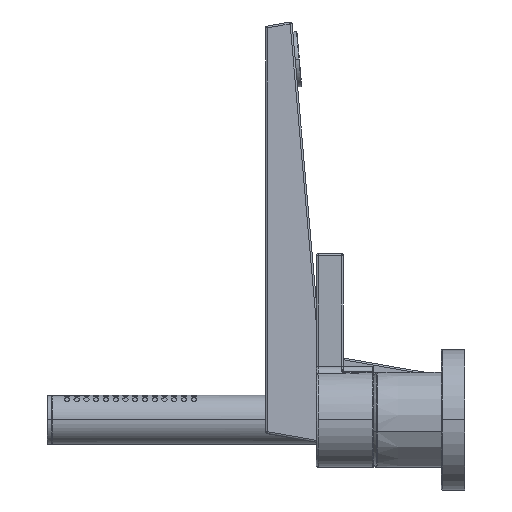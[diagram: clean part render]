
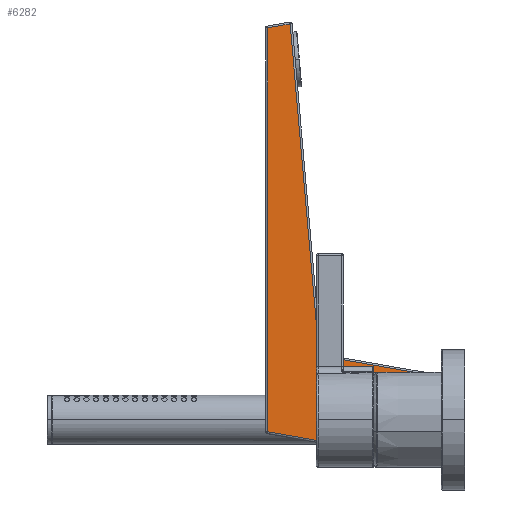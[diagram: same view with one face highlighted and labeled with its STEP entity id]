
A CAD part, left-side view. The second image highlights one B-rep face of the part: STEP entity #6282.
In plain terms, the highlighted planar face has unit normal (-1, 0, 0.021).
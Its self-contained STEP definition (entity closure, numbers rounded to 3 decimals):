
#74 = CARTESIAN_POINT ( 'NONE',  ( 900.361, 1347.236, 2050.237 ) ) ;
#111 = VERTEX_POINT ( 'NONE', #2458 ) ;
#301 = CARTESIAN_POINT ( 'NONE',  ( 901.179, 1319.273, 2088.97 ) ) ;
#528 = ORIENTED_EDGE ( 'NONE', *, *, #3383, .T. ) ;
#585 = CARTESIAN_POINT ( 'NONE',  ( 901.217, 1320.918, 2090.765 ) ) ;
#634 = CARTESIAN_POINT ( 'NONE',  ( 901.212, 1320.899, 2090.546 ) ) ;
#1056 = ORIENTED_EDGE ( 'NONE', *, *, #6873, .T. ) ;
#1213 = CARTESIAN_POINT ( 'NONE',  ( 901.217, 1320.918, 2090.765 ) ) ;
#1821 = EDGE_CURVE ( 'NONE', #5050, #11931, #5612, .T. ) ;
#1896 = ORIENTED_EDGE ( 'NONE', *, *, #16112, .F. ) ;
#2208 = CARTESIAN_POINT ( 'NONE',  ( 900.951, 1258.236, 2078.207 ) ) ;
#2458 = CARTESIAN_POINT ( 'NONE',  ( 904.728, 1347.236, 2257.159 ) ) ;
#2907 = CARTESIAN_POINT ( 'NONE',  ( 901.179, 1319.273, 2088.97 ) ) ;
#3149 = DIRECTION ( 'NONE',  ( 0.021, 0., 1. ) ) ;
#3153 = B_SPLINE_CURVE_WITH_KNOTS ( 'NONE', 3,
 ( #301, #6962, #15713, #14542, #5622, #6906, #15816, #15874, #634, #585 ),
 .UNSPECIFIED., .F., .F.,
 ( 4, 2, 2, 2, 4 ),
 ( 0., 0.25, 0.5, 0.75, 1. ),
 .UNSPECIFIED. ) ;
#3383 = EDGE_CURVE ( 'NONE', #9999, #8040, #15517, .T. ) ;
#3606 = DIRECTION ( 'NONE',  ( 0.004, 0.985, 0.174 ) ) ;
#3846 = DIRECTION ( 'NONE',  ( -0.004, -0.985, -0.174 ) ) ;
#4524 = FACE_OUTER_BOUND ( 'NONE', #7631, .T. ) ;
#4591 = CARTESIAN_POINT ( 'NONE',  ( 902.392, 1347.236, 2146.442 ) ) ;
#4762 = CARTESIAN_POINT ( 'NONE',  ( 900.951, 1258.236, 2078.207 ) ) ;
#4866 = VERTEX_POINT ( 'NONE', #6132 ) ;
#5043 = LINE ( 'NONE', #9400, #14644 ) ;
#5050 = VERTEX_POINT ( 'NONE', #6179 ) ;
#5612 = LINE ( 'NONE', #1213, #12787 ) ;
#5622 = CARTESIAN_POINT ( 'NONE',  ( 901.188, 1320.252, 2089.427 ) ) ;
#5810 = LINE ( 'NONE', #8137, #8224 ) ;
#5990 = DIRECTION ( 'NONE',  ( 0.021, 0., 1. ) ) ;
#6132 = CARTESIAN_POINT ( 'NONE',  ( 900.361, 1347.236, 2050.237 ) ) ;
#6179 = CARTESIAN_POINT ( 'NONE',  ( 901.217, 1320.918, 2090.765 ) ) ;
#6282 = ADVANCED_FACE ( 'NONE', ( #4524 ), #12319, .T. ) ;
#6608 = ORIENTED_EDGE ( 'NONE', *, *, #13248, .T. ) ;
#6873 = EDGE_CURVE ( 'NONE', #4866, #9710, #10290, .T. ) ;
#6906 = CARTESIAN_POINT ( 'NONE',  ( 901.195, 1320.549, 2089.751 ) ) ;
#6962 = CARTESIAN_POINT ( 'NONE',  ( 901.179, 1319.49, 2089.008 ) ) ;
#7089 = VECTOR ( 'NONE', #3846, 1000. ) ;
#7631 = EDGE_LOOP ( 'NONE', ( #12548, #1896, #1056, #14848, #528, #6608, #9629 ) ) ;
#8040 = VERTEX_POINT ( 'NONE', #2907 ) ;
#8137 = CARTESIAN_POINT ( 'NONE',  ( 904.772, 1335.655, 2259.201 ) ) ;
#8224 = VECTOR ( 'NONE', #9412, 1000. ) ;
#8736 = AXIS2_PLACEMENT_3D ( 'NONE', #12370, #12426, #5990 ) ;
#9400 = CARTESIAN_POINT ( 'NONE',  ( 900.008, 1258.236, 2033.508 ) ) ;
#9412 = DIRECTION ( 'NONE',  ( -0.004, 0.985, -0.174 ) ) ;
#9603 = VECTOR ( 'NONE', #14781, 1000. ) ;
#9629 = ORIENTED_EDGE ( 'NONE', *, *, #1821, .T. ) ;
#9710 = VERTEX_POINT ( 'NONE', #14737 ) ;
#9999 = VERTEX_POINT ( 'NONE', #4762 ) ;
#10281 = EDGE_CURVE ( 'NONE', #9710, #9999, #5043, .T. ) ;
#10290 = LINE ( 'NONE', #74, #7089 ) ;
#10913 = VECTOR ( 'NONE', #3606, 1000. ) ;
#10976 = LINE ( 'NONE', #4591, #9603 ) ;
#11398 = DIRECTION ( 'NONE',  ( 0.021, 0.087, 0.996 ) ) ;
#11931 = VERTEX_POINT ( 'NONE', #12761 ) ;
#12319 = PLANE ( 'NONE',  #8736 ) ;
#12370 = CARTESIAN_POINT ( 'NONE',  ( 900.008, 1258.236, 2033.508 ) ) ;
#12426 = DIRECTION ( 'NONE',  ( -1., 0., 0.021 ) ) ;
#12548 = ORIENTED_EDGE ( 'NONE', *, *, #15770, .T. ) ;
#12761 = CARTESIAN_POINT ( 'NONE',  ( 904.772, 1335.655, 2259.201 ) ) ;
#12787 = VECTOR ( 'NONE', #11398, 1000. ) ;
#13248 = EDGE_CURVE ( 'NONE', #8040, #5050, #3153, .T. ) ;
#14542 = CARTESIAN_POINT ( 'NONE',  ( 901.185, 1320.081, 2089.292 ) ) ;
#14644 = VECTOR ( 'NONE', #3149, 1000. ) ;
#14737 = CARTESIAN_POINT ( 'NONE',  ( 900.03, 1258.236, 2034.544 ) ) ;
#14781 = DIRECTION ( 'NONE',  ( 0.021, 0., 1. ) ) ;
#14848 = ORIENTED_EDGE ( 'NONE', *, *, #10281, .T. ) ;
#15517 = LINE ( 'NONE', #2208, #10913 ) ;
#15713 = CARTESIAN_POINT ( 'NONE',  ( 901.181, 1319.695, 2089.081 ) ) ;
#15770 = EDGE_CURVE ( 'NONE', #11931, #111, #5810, .T. ) ;
#15816 = CARTESIAN_POINT ( 'NONE',  ( 901.199, 1320.668, 2089.933 ) ) ;
#15874 = CARTESIAN_POINT ( 'NONE',  ( 901.207, 1320.845, 2090.336 ) ) ;
#16112 = EDGE_CURVE ( 'NONE', #4866, #111, #10976, .T. ) ;
